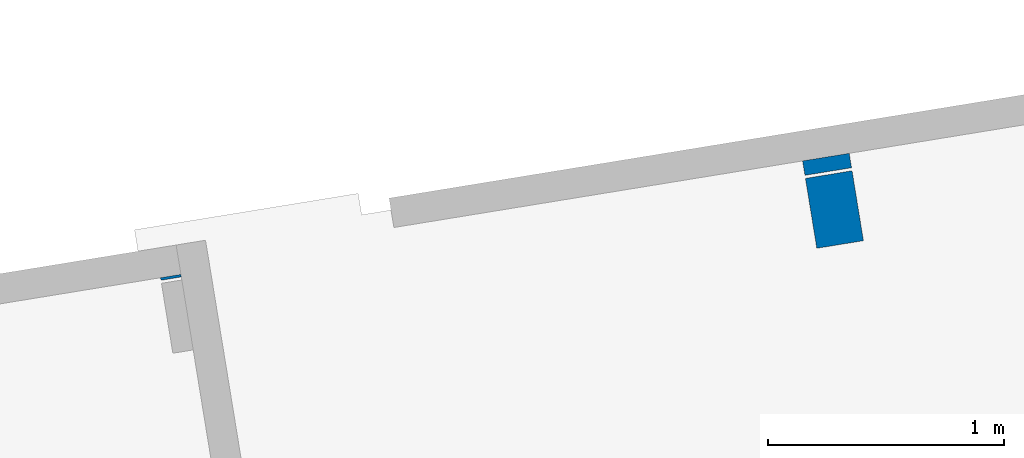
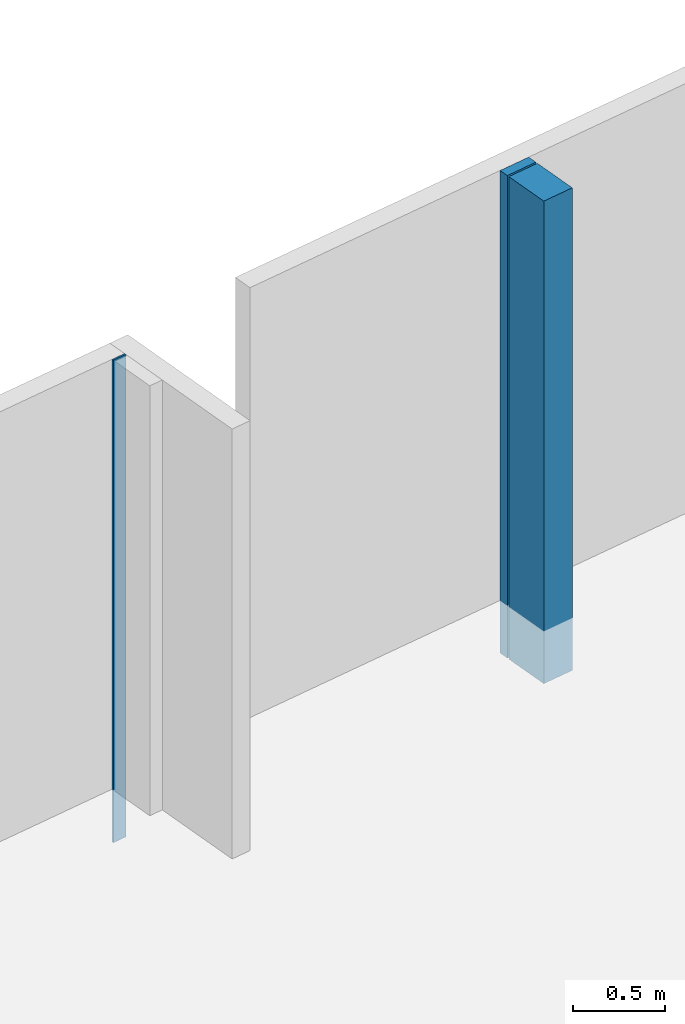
# One storey, part 2 of 5: 3 columns.
"""IFC2X3 building model written with IfcOpenShell, lengths in millimetres."""

from ifc_helpers import new_model, entity, si_unit, converted_unit, derived_unit, direction, frame, frame_2d, origin, origin_with_axes, place, context, subcontext, project, spatial, rectangle, extrude, source, transform, mapped, material, type_object, element, save


model = new_model("IFC2X3")

# Units and contexts
model_context = context("Model", 3, precision=0.01, world=origin(), true_north=direction((6.12323399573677e-17, 1.0)))
plan_context = context("Plan", 3, precision=1e-05, world=origin_with_axes())
body_context = subcontext(model_context, "Body", "Model", "MODEL_VIEW")
ifc_project = project(units=[converted_unit("PLANEANGLEUNIT", "DEGREE", entity("IfcPositiveLengthMeasure", 0.0174532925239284), si_unit("PLANEANGLEUNIT", "RADIAN"), dimensions=[0, 0, 0, 0, 0, 0, 0]), si_unit("AREAUNIT", "SQUARE_METRE"), si_unit("LENGTHUNIT", "METRE", prefix="MILLI"), si_unit("MASSUNIT", "GRAM", prefix="KILO"), si_unit("POWERUNIT", "WATT"), si_unit("PRESSUREUNIT", "PASCAL", prefix="KILO"), si_unit("FORCEUNIT", "NEWTON", prefix="KILO"), si_unit("ELECTRICVOLTAGEUNIT", "VOLT"), si_unit("ELECTRICCURRENTUNIT", "AMPERE"), si_unit("THERMODYNAMICTEMPERATUREUNIT", "DEGREE_CELSIUS"), si_unit("TIMEUNIT", "SECOND"), si_unit("VOLUMEUNIT", "CUBIC_METRE"), derived_unit("LINEARVELOCITYUNIT", [(si_unit("LENGTHUNIT", "METRE"), 1), (si_unit("TIMEUNIT", "SECOND"), -1)]), derived_unit("VOLUMETRICFLOWRATEUNIT", [(si_unit("VOLUMEUNIT", "CUBIC_METRE"), 1), (si_unit("TIMEUNIT", "SECOND"), -1)]), derived_unit("THERMALTRANSMITTANCEUNIT", [(si_unit("POWERUNIT", "WATT"), 1), (si_unit("THERMODYNAMICTEMPERATUREUNIT", "KELVIN"), -1), (si_unit("AREAUNIT", "SQUARE_METRE"), -1)]), derived_unit("SOUNDPRESSUREUNIT", [(si_unit("PRESSUREUNIT", "PASCAL"), 1)])], contexts=[model_context, plan_context])

# Site, building, storey
site_placement = place(None, frame((118326.676922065, 1366174.45681126, 48360.0), z_axis=(0.0, 0.0, 1.0), x_axis=(0.160815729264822, -0.986984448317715, 0.0)))
site = spatial("IfcSite", under=ifc_project, at=site_placement, Name="Default", CompositionType="ELEMENT")
building_placement = place(site_placement, origin_with_axes())
building = spatial("IfcBuilding", under=site, at=building_placement, Name="br002", CompositionType="ELEMENT")
storey_placement = place(building_placement, frame((0.0, 0.0, 3850.0), z_axis=(0.0, 0.0, 1.0), x_axis=(1.0, 0.0, 0.0)))
storey = spatial("IfcBuildingStorey", under=building, at=storey_placement, Name="H01", CompositionType="ELEMENT", Elevation=3849.99999999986)

# Columns
ifc_material = material(Name="Concrete, Cast In Situ")
column_type_1 = type_object("IfcColumnType", Name="M_Rectangular Column:100 x 200 mm", PredefinedType="COLUMN", material=ifc_material)
shared_shape_1 = source(origin(), body_context, "Body", "SweptSolid", [
    extrude(rectangle(XDim=10.9999999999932, YDim=87.3663800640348, at=frame_2d((-2.16582307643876e-12, 0.0), x_axis=(1.0, 0.0))), frame((25080.6710782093, 9407.29773480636, 3850.0), z_axis=(0.0, 0.0, 1.0), x_axis=(-1.0, 0.0, 0.0)), (0.0, 0.0, 1.0), 3200.00000000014),
])
column_1_placement = place(storey_placement, frame((0.0, 0.0, -3850.0), z_axis=(0.0, 0.0, 1.0), x_axis=(1.0, 0.0, 0.0)))
element("IfcColumn", 1, at=column_1_placement, inside=storey, type_object=column_type_1, material=ifc_material, Name="M_Rectangular Column:100 x 200 mm", ObjectType="M_Rectangular Column:100 x 200 mm", context=body_context, shape_type="MappedRepresentation", body=[
    mapped(shared_shape_1, transform((0.0, 0.0, 0.0), scale=1.0)),
])
column_type_2 = type_object("IfcColumnType", Name="M_Rectangular Column:200 x 300 mm", PredefinedType="COLUMN", material=ifc_material)
shared_shape_2 = source(origin(), body_context, "Body", "SweptSolid", [
    extrude(rectangle(XDim=200.0, YDim=300.000000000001, at=frame_2d((-1.08713038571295e-12, 0.0), x_axis=(1.0, 0.0))), frame((25249.1710782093, 12227.1763278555, 3850.0), z_axis=(0.0, 0.0, 1.0), x_axis=(0.0, 1.0, 0.0)), (0.0, 0.0, 1.0), 3200.00000000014),
])
column_2_placement = place(storey_placement, frame((0.0, 0.0, -3850.0), z_axis=(0.0, 0.0, 1.0), x_axis=(1.0, 0.0, 0.0)))
element("IfcColumn", 2, at=column_2_placement, inside=storey, type_object=column_type_2, material=ifc_material, Name="M_Rectangular Column:200 x 300 mm", ObjectType="M_Rectangular Column:200 x 300 mm", context=body_context, shape_type="MappedRepresentation", body=[
    mapped(shared_shape_2, transform((0.0, 0.0, 0.0), scale=1.0)),
])
column_type_3 = type_object("IfcColumnType", Name="M_Rectangular Column:100 x 200 mm", PredefinedType="COLUMN", material=ifc_material)
shared_shape_3 = source(origin(), body_context, "Body", "SweptSolid", [
    extrude(rectangle(XDim=61.9999999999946, YDim=200.0, at=frame_2d((0.0, 1.08713038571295e-12), x_axis=(1.0, 0.0))), frame((25055.1710782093, 12227.1763278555, 3850.0), z_axis=(0.0, 0.0, 1.0), x_axis=(-1.0, 0.0, 0.0)), (0.0, 0.0, 1.0), 3200.00000000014),
])
column_3_placement = place(storey_placement, frame((0.0, 0.0, -3850.0), z_axis=(0.0, 0.0, 1.0), x_axis=(1.0, 0.0, 0.0)))
element("IfcColumn", 3, at=column_3_placement, inside=storey, type_object=column_type_3, material=ifc_material, Name="M_Rectangular Column:100 x 200 mm", ObjectType="M_Rectangular Column:100 x 200 mm", context=body_context, shape_type="MappedRepresentation", body=[
    mapped(shared_shape_3, transform((0.0, 0.0, 0.0), scale=1.0)),
])

save(model, "model.ifc")
